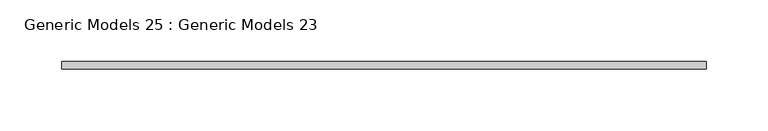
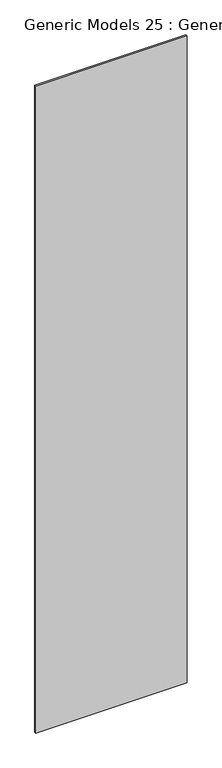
"""IFC4 building model written with IfcOpenShell, lengths in millimetres: proxy geometry, Generic Models 25 : Generic Models 23."""

from ifc_helpers import new_model, si_unit, frame, origin, place, context, project, spatial, polyline, outline, extrude, source, transform, mapped, element, save


def generic_models_25_generic_models_23_504d38dc(model_context):
    return source(origin(), model_context, "Body", "SweptSolid", [
        extrude(outline(polyline([(91433.9501918, 13137.5207549), (91956.2118995, 13137.5207549), (91956.2118995, 13131.4952727), (91433.9501918, 13131.4952727), (91433.9501918, 13137.5207549)])), frame((0.0, 0.0, 450.0), z_axis=(0.0, 0.0, 1.0), x_axis=(1.0, 0.0, 0.0)), (0.0, 0.0, 1.0), 2360.0376502),
    ])


if __name__ == "__main__":
    model = new_model("IFC4")
    model_context = context("Model", 3, world=origin())
    ifc_project = project(units=[si_unit("LENGTHUNIT", "METRE", prefix="MILLI")], contexts=[model_context])
    site = spatial("IfcSite", under=ifc_project)
    building = spatial("IfcBuilding", under=site)
    placement = place(None, origin())
    generic_models_25_generic_models_23_shape = generic_models_25_generic_models_23_504d38dc(model_context)
    element("IfcBuildingElementProxy", 1, Name="Generic Models 25 : Generic Models 23", ObjectType="Generic Models 25 : Generic Models 23", at=placement, inside=building, context=model_context, shape_type="MappedRepresentation", body=[
        mapped(generic_models_25_generic_models_23_shape, transform((0.0, 0.0, 0.0), x_axis=(1.0, 0.0, 0.0), y_axis=(0.0, 1.0, 0.0), z_axis=(0.0, 0.0, 1.0))),
    ])
    save(model, "model.ifc")
